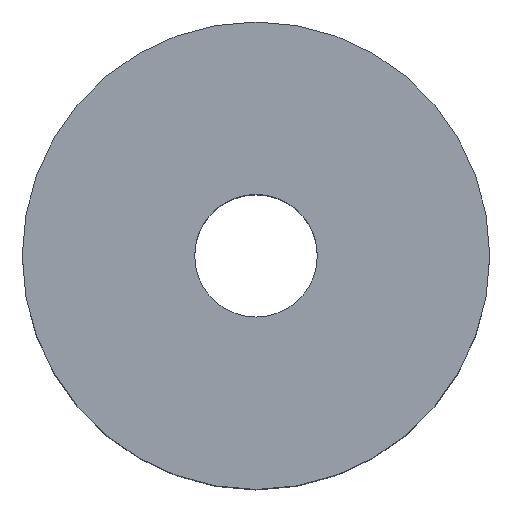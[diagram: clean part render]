
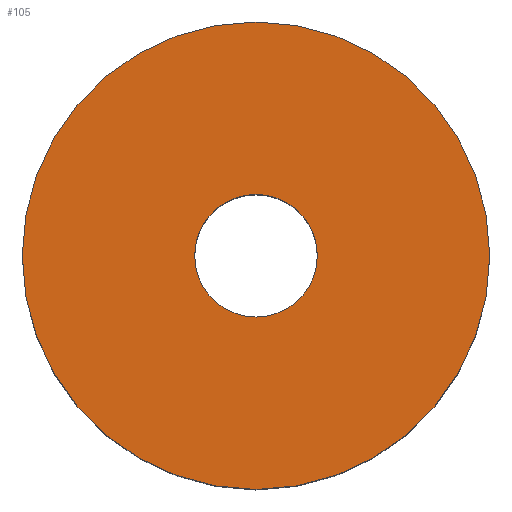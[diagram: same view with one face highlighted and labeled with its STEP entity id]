
A CAD part, top view. The second image highlights one B-rep face of the part: STEP entity #105.
In plain terms, the highlighted planar face has unit normal (0, 0, 1).
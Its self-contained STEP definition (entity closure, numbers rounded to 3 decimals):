
#21 = EDGE_CURVE('',#22,#22,#24,.T.);
#22 = VERTEX_POINT('',#23);
#23 = CARTESIAN_POINT('',(-383.544,-142.369,23.));
#24 = SURFACE_CURVE('',#25,(#30,#42),.PCURVE_S1.);
#25 = CIRCLE('',#26,16.);
#26 = AXIS2_PLACEMENT_3D('',#27,#28,#29);
#27 = CARTESIAN_POINT('',(-399.544,-142.369,23.));
#28 = DIRECTION('',(0.,0.,1.));
#29 = DIRECTION('',(1.,0.,-0.));
#30 = PCURVE('',#31,#36);
#31 = CYLINDRICAL_SURFACE('',#32,16.);
#32 = AXIS2_PLACEMENT_3D('',#33,#34,#35);
#33 = CARTESIAN_POINT('',(-399.544,-142.369,2.));
#34 = DIRECTION('',(0.,0.,1.));
#35 = DIRECTION('',(1.,0.,-0.));
#36 = DEFINITIONAL_REPRESENTATION('',(#37),#41);
#37 = LINE('',#38,#39);
#38 = CARTESIAN_POINT('',(0.,21.));
#39 = VECTOR('',#40,1.);
#40 = DIRECTION('',(1.,0.));
#41 = ( GEOMETRIC_REPRESENTATION_CONTEXT(2) 
PARAMETRIC_REPRESENTATION_CONTEXT() REPRESENTATION_CONTEXT('2D SPACE',''
  ) );
#42 = PCURVE('',#43,#48);
#43 = PLANE('',#44);
#44 = AXIS2_PLACEMENT_3D('',#45,#46,#47);
#45 = CARTESIAN_POINT('',(-399.544,-142.369,23.));
#46 = DIRECTION('',(0.,0.,1.));
#47 = DIRECTION('',(1.,0.,-0.));
#48 = DEFINITIONAL_REPRESENTATION('',(#49),#53);
#49 = CIRCLE('',#50,16.);
#50 = AXIS2_PLACEMENT_2D('',#51,#52);
#51 = CARTESIAN_POINT('',(0.,0.));
#52 = DIRECTION('',(1.,0.));
#53 = ( GEOMETRIC_REPRESENTATION_CONTEXT(2) 
PARAMETRIC_REPRESENTATION_CONTEXT() REPRESENTATION_CONTEXT('2D SPACE',''
  ) );
#105 = ADVANCED_FACE('',(#106,#109),#43,.T.);
#106 = FACE_BOUND('',#107,.T.);
#107 = EDGE_LOOP('',(#108));
#108 = ORIENTED_EDGE('',*,*,#21,.T.);
#109 = FACE_BOUND('',#110,.T.);
#110 = EDGE_LOOP('',(#111));
#111 = ORIENTED_EDGE('',*,*,#112,.F.);
#112 = EDGE_CURVE('',#113,#113,#115,.T.);
#113 = VERTEX_POINT('',#114);
#114 = CARTESIAN_POINT('',(-395.344,-142.369,23.));
#115 = SURFACE_CURVE('',#116,(#121,#128),.PCURVE_S1.);
#116 = CIRCLE('',#117,4.2);
#117 = AXIS2_PLACEMENT_3D('',#118,#119,#120);
#118 = CARTESIAN_POINT('',(-399.544,-142.369,23.));
#119 = DIRECTION('',(0.,0.,1.));
#120 = DIRECTION('',(1.,0.,-0.));
#121 = PCURVE('',#43,#122);
#122 = DEFINITIONAL_REPRESENTATION('',(#123),#127);
#123 = CIRCLE('',#124,4.2);
#124 = AXIS2_PLACEMENT_2D('',#125,#126);
#125 = CARTESIAN_POINT('',(0.,0.));
#126 = DIRECTION('',(1.,0.));
#127 = ( GEOMETRIC_REPRESENTATION_CONTEXT(2) 
PARAMETRIC_REPRESENTATION_CONTEXT() REPRESENTATION_CONTEXT('2D SPACE',''
  ) );
#128 = PCURVE('',#129,#134);
#129 = CYLINDRICAL_SURFACE('',#130,4.2);
#130 = AXIS2_PLACEMENT_3D('',#131,#132,#133);
#131 = CARTESIAN_POINT('',(-399.544,-142.369,2.));
#132 = DIRECTION('',(0.,0.,1.));
#133 = DIRECTION('',(1.,0.,-0.));
#134 = DEFINITIONAL_REPRESENTATION('',(#135),#139);
#135 = LINE('',#136,#137);
#136 = CARTESIAN_POINT('',(0.,21.));
#137 = VECTOR('',#138,1.);
#138 = DIRECTION('',(1.,0.));
#139 = ( GEOMETRIC_REPRESENTATION_CONTEXT(2) 
PARAMETRIC_REPRESENTATION_CONTEXT() REPRESENTATION_CONTEXT('2D SPACE',''
  ) );
